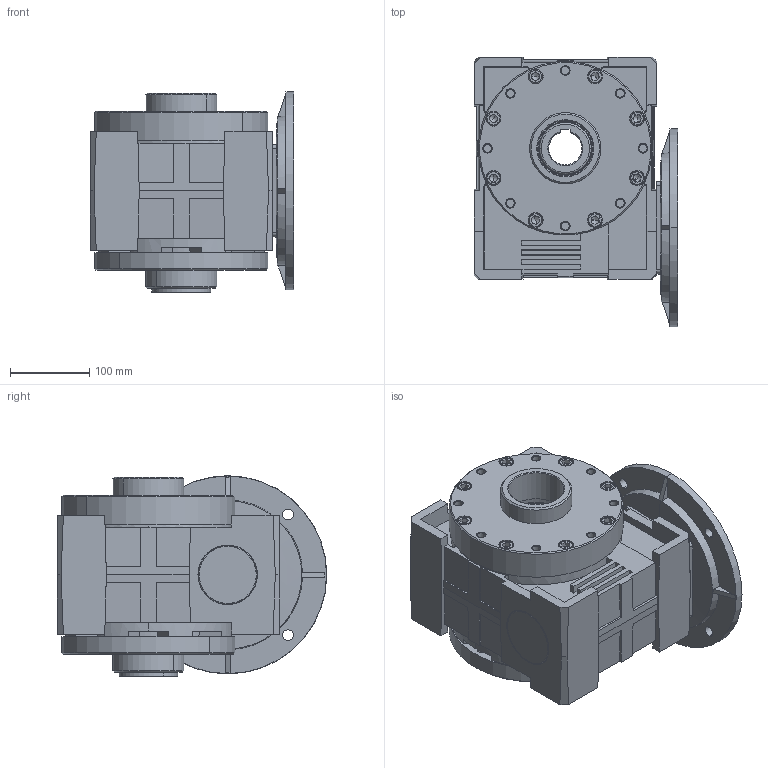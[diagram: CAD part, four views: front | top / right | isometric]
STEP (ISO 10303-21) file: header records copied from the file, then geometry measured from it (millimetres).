
FILE_DESCRIPTION (( 'STEP AP203' ), '1' );
FILE_NAME ('MRP-100_250-28_SO-1.STEP', '2022-12-05T11:35:04', ( '' ), ( '' ), 'SwSTEP 2.0', 'SolidWorks 2022', '' );
FILE_SCHEMA (( 'CONFIG_CONTROL_DESIGN' ));
Length unit declared in the file: millimetre
Products named in the file (1): MRP-100_250-28_SO-1
Bounding box: 257 x 340 x 253 mm (x, y, z)
Volume: 10047764.8 mm3; surface area: 741620.6 mm2
Topology: 1 solids, 42 shells, 1409 faces, 3274 edges, 2002 vertices
Faces by surface type: plane 691, cylinder 304, cone 287, torus 115, bspline 12
Entity records: 40752 total; most frequent: CARTESIAN_POINT 8324, DIRECTION 7088, ORIENTED_EDGE 6424, EDGE_CURVE 3212, AXIS2_PLACEMENT_3D 2709, VERTEX_POINT 2002, LINE 1670, VECTOR 1670
